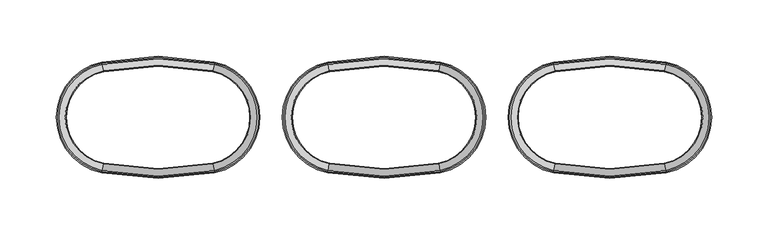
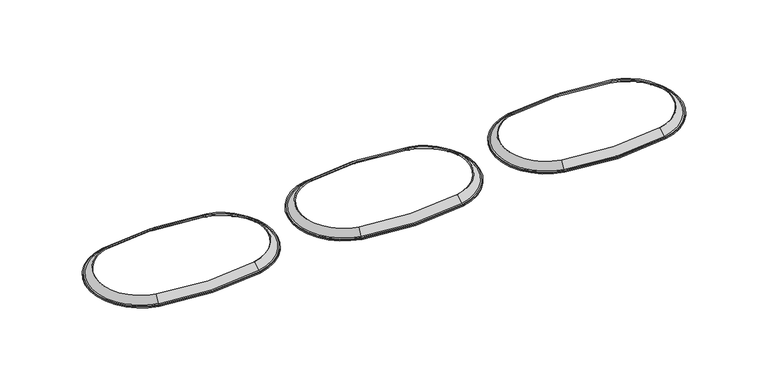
"""IFC4 building model written with IfcOpenShell, lengths in millimetres: proxy geometry, afs-LW-Track-162 : afs-LW-Track-162."""

from ifc_helpers import new_model, si_unit, point, frame, origin, place, context, project, spatial, polyline, circle_curve, ellipse_curve, trimmed, source, transform, mapped, element, save
from ifc_brep_helpers import plane_surface, cylinder_surface, revolved_surface, advanced_brep


def generic_models_f21598dd(model_context):
    return source(origin(), model_context, "Body", "AdvancedBrep", [
        advanced_brep(
        [(1159.3576594, -46.3549295, 1.862006), (1060.6423406, -46.3549295, 1.862006), (1061.8277027, -40.4865309, 7.8489239), (1158.1722973, -40.4865309, 7.8489239), (1159.6338898, -47.7224696, 1.2), (1060.3661102, -47.7224696, 1.2), (1159.8939957, -49.0101813, 2.1883516), (1060.1060043, -49.0101813, 2.1883516), (1060.1060043, -49.0101813, 1.2), (1159.8939957, -49.0101813, 1.2), (1159.4941023, -47.0304204, 2.5870863), (1060.5058977, -47.0304204, 2.5870863), (1060.3153044, -47.9739947, 2.1883516), (1159.6846956, -47.9739947, 2.1883516), (1158.3122988, -41.1796395, 8.5560306), (1061.6877012, -41.1796395, 8.5560306), (1060.6423406, 46.3549295, 1.862006), (1159.3576594, 46.3549295, 1.862006), (1158.1722973, 40.4865309, 7.8489239), (1061.8277027, 40.4865309, 7.8489239), (1060.3661102, 47.7224696, 1.2), (1159.6338898, 47.7224696, 1.2), (1060.1060043, 49.0101813, 2.1883516), (1159.8939957, 49.0101813, 2.1883516), (1159.8939957, 49.0101813, 1.2), (1060.1060043, 49.0101813, 1.2), (1060.5058977, 47.0304204, 2.5870863), (1159.4941023, 47.0304204, 2.5870863), (1159.6846956, 47.9739947, 2.1883516), (1060.3153044, 47.9739947, 2.1883516), (1061.6877012, 41.1796395, 8.5560306), (1158.3122988, 41.1796395, 8.5560306)],
        [
            (0, 1, circle_curve(frame((1110.0, 198.0011326, 1.862006), z_axis=(0.0, 0.0, -1.0), x_axis=(-0.1979920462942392, -0.9802036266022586, 0.0)), 249.2911222)),
            (1, 2),
            (2, 3, circle_curve(frame((1110.0, 198.0011326, 7.8489239), z_axis=(0.0, 0.0, 1.0), x_axis=(-0.1979920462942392, -0.9802036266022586, 0.0)), 243.3042043)),
            (3, 0),
            (4, 5, circle_curve(frame((1110.0, 198.0011326, 1.2), z_axis=(0.0, 0.0, -1.0), x_axis=(-0.1979920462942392, -0.9802036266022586, 0.0)), 250.6862814)),
            (5, 1, circle_curve(frame((1060.3203371, -47.9490794, 3.4883516), z_axis=(0.9802036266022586, -0.1979920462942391, 0.0), x_axis=(0.1979920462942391, 0.9802036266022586, 0.0)), 2.3)),
            (0, 4, circle_curve(frame((1159.6796629, -47.9490794, 3.4883516), z_axis=(-0.9802036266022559, -0.19799204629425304, 0.0), x_axis=(-0.19799204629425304, 0.9802036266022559, 0.0)), 2.3)),
            (6, 7, circle_curve(frame((1110.0, 198.0011326, 2.1883516), z_axis=(0.0, 0.0, -1.0), x_axis=(-0.1979920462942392, -0.9802036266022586, 0.0)), 252.0)),
            (7, 8),
            (8, 9, circle_curve(frame((1110.0, 198.0011326, 1.2), z_axis=(0.0, 0.0, 1.0), x_axis=(-0.1979920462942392, -0.9802036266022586, 0.0)), 252.0)),
            (9, 6),
            (10, 11, circle_curve(frame((1110.0, 198.0011326, 2.5870863), z_axis=(0.0, 0.0, -1.0), x_axis=(-0.1979920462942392, -0.9802036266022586, 0.0)), 249.9802554)),
            (11, 12, circle_curve(frame((1060.3153044, -47.9739947, 3.5497172), z_axis=(-0.9802036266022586, 0.1979920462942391, 0.0), x_axis=(0.1979920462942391, 0.9802036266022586, 0.0)), 1.3613657)),
            (12, 13, circle_curve(frame((1110.0, 198.0011326, 2.1883516), z_axis=(0.0, 0.0, 1.0), x_axis=(-0.1979920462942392, -0.9802036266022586, 0.0)), 250.9428863)),
            (13, 10, circle_curve(frame((1159.6846956, -47.9739947, 3.5497172), z_axis=(0.9802036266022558, 0.197992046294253, 0.0), x_axis=(-0.197992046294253, 0.9802036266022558, 0.0)), 1.3613657)),
            (14, 15, circle_curve(frame((1110.0, 198.0011326, 8.5560306), z_axis=(0.0, 0.0, -1.0), x_axis=(-0.1979920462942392, -0.9802036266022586, 0.0)), 244.0113111)),
            (15, 11),
            (10, 14),
            (2, 15),
            (14, 3),
            (16, 17, circle_curve(frame((1110.0, -198.0011326, 1.862006), z_axis=(0.0, 0.0, -1.0), x_axis=(0.1979920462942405, 0.9802036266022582, 0.0)), 249.2911222)),
            (17, 18),
            (18, 19, circle_curve(frame((1110.0, -198.0011326, 7.8489239), z_axis=(0.0, 0.0, 1.0), x_axis=(0.1979920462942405, 0.9802036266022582, 0.0)), 243.3042043)),
            (19, 16),
            (20, 21, circle_curve(frame((1110.0, -198.0011326, 1.2), z_axis=(0.0, 0.0, -1.0), x_axis=(0.1979920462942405, 0.9802036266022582, 0.0)), 250.6862814)),
            (21, 17, circle_curve(frame((1159.6796629, 47.9490794, 3.4883516), z_axis=(-0.9802036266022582, 0.19799204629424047, 0.0), x_axis=(-0.19799204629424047, -0.9802036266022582, 0.0)), 2.3)),
            (16, 20, circle_curve(frame((1060.3203371, 47.9490794, 3.4883516), z_axis=(0.9802036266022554, 0.1979920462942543, 0.0), x_axis=(0.1979920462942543, -0.9802036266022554, 0.0)), 2.3)),
            (22, 23, circle_curve(frame((1110.0, -198.0011326, 2.1883516), z_axis=(0.0, 0.0, -1.0), x_axis=(0.1979920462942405, 0.9802036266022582, 0.0)), 252.0)),
            (23, 24),
            (24, 25, circle_curve(frame((1110.0, -198.0011326, 1.2), z_axis=(0.0, 0.0, 1.0), x_axis=(0.1979920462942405, 0.9802036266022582, 0.0)), 252.0)),
            (25, 22),
            (26, 27, circle_curve(frame((1110.0, -198.0011326, 2.5870863), z_axis=(0.0, 0.0, -1.0), x_axis=(0.1979920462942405, 0.9802036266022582, 0.0)), 249.9802554)),
            (27, 28, circle_curve(frame((1159.6846956, 47.9739947, 3.5497172), z_axis=(0.9802036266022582, -0.19799204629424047, 0.0), x_axis=(-0.19799204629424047, -0.9802036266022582, 0.0)), 1.3613657)),
            (28, 29, circle_curve(frame((1110.0, -198.0011326, 2.1883516), z_axis=(0.0, 0.0, 1.0), x_axis=(0.1979920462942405, 0.9802036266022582, 0.0)), 250.9428863)),
            (29, 26, circle_curve(frame((1060.3153044, 47.9739947, 3.5497172), z_axis=(-0.9802036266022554, -0.19799204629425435, 0.0), x_axis=(0.19799204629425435, -0.9802036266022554, 0.0)), 1.3613657)),
            (30, 31, circle_curve(frame((1110.0, -198.0011326, 8.5560306), z_axis=(0.0, 0.0, -1.0), x_axis=(0.1979920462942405, 0.9802036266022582, 0.0)), 244.0113111)),
            (31, 27),
            (26, 30),
            (18, 31),
            (30, 19),
            (1, 16, circle_curve(frame((1070.0056066, 0.0, 1.862006), z_axis=(0.0, 0.0, -1.0), x_axis=(-0.19799204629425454, 0.9802036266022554, 0.0)), 47.2911222)),
            (19, 2, circle_curve(frame((1070.0056066, 0.0, 7.8489239), z_axis=(0.0, 0.0, 1.0), x_axis=(-0.19799204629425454, 0.9802036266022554, 0.0)), 41.3042043)),
            (5, 20, circle_curve(frame((1070.0056066, 0.0, 1.2), z_axis=(0.0, 0.0, -1.0), x_axis=(-0.19799204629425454, 0.9802036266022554, 0.0)), 48.6862814)),
            (7, 22, circle_curve(frame((1070.0056066, 0.0, 2.1883516), z_axis=(0.0, 0.0, -1.0), x_axis=(-0.19799204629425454, 0.9802036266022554, 0.0)), 50.0)),
            (25, 8, circle_curve(frame((1070.0056066, 0.0, 1.2), z_axis=(0.0, 0.0, 1.0), x_axis=(-0.19799204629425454, 0.9802036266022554, 0.0)), 50.0)),
            (11, 26, circle_curve(frame((1070.0056066, 0.0, 2.5870863), z_axis=(0.0, 0.0, -1.0), x_axis=(-0.19799204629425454, 0.9802036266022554, 0.0)), 47.9802554)),
            (29, 12, circle_curve(frame((1070.0056066, 0.0, 2.1883516), z_axis=(0.0, 0.0, 1.0), x_axis=(-0.19799204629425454, 0.9802036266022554, 0.0)), 48.9428863)),
            (15, 30, circle_curve(frame((1070.0056066, 0.0, 8.5560306), z_axis=(0.0, 0.0, -1.0), x_axis=(-0.19799204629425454, 0.9802036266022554, 0.0)), 42.0113111)),
            (17, 0, circle_curve(frame((1149.9943934, 0.0, 1.862006), z_axis=(0.0, 0.0, -1.0), x_axis=(0.19799204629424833, -0.9802036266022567, 0.0)), 47.2911222)),
            (3, 18, circle_curve(frame((1149.9943934, 0.0, 7.8489239), z_axis=(0.0, 0.0, 1.0), x_axis=(0.19799204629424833, -0.9802036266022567, 0.0)), 41.3042043)),
            (21, 4, circle_curve(frame((1149.9943934, 0.0, 1.2), z_axis=(0.0, 0.0, -1.0), x_axis=(0.19799204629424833, -0.9802036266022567, 0.0)), 48.6862814)),
            (24, 9, circle_curve(frame((1149.9943934, 0.0, 1.2), z_axis=(0.0, 0.0, -1.0), x_axis=(0.19799204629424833, -0.9802036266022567, 0.0)), 50.0)),
            (23, 6, circle_curve(frame((1149.9943934, 0.0, 2.1883516), z_axis=(0.0, 0.0, -1.0), x_axis=(0.19799204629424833, -0.9802036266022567, 0.0)), 50.0)),
            (28, 13, circle_curve(frame((1149.9943934, 0.0, 2.1883516), z_axis=(0.0, 0.0, -1.0), x_axis=(0.19799204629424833, -0.9802036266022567, 0.0)), 48.9428863)),
            (27, 10, circle_curve(frame((1149.9943934, 0.0, 2.5870863), z_axis=(0.0, 0.0, -1.0), x_axis=(0.19799204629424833, -0.9802036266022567, 0.0)), 47.9802554)),
            (31, 14, circle_curve(frame((1149.9943934, 0.0, 8.5560306), z_axis=(0.0, 0.0, -1.0), x_axis=(0.19799204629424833, -0.9802036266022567, 0.0)), 42.0113111)),
        ],
        [
            revolved_surface(polyline([(1061.8277027, -40.4865309, 7.8489239), (1060.6423406, -46.3549295, 1.862006)]), (1110.0, 198.0011326, 1.2), (0.0, 0.0, 1.0)),
            revolved_surface(trimmed(ellipse_curve(frame((1060.3203371, -47.9490794, 3.4883516), z_axis=(-0.9802036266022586, 0.1979920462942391, 0.0), x_axis=(0.1979920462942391, 0.9802036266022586, 0.0)), 2.3, 2.3), [point((1060.6423406, -46.3549295, 1.862006))], [point((1060.3661102, -47.7224696, 1.2))], True, "CARTESIAN"), (1110.0, 198.0011326, 1.2), (0.0, 0.0, 1.0)),
            cylinder_surface(frame((1110.0, 198.0011326, 1.2), z_axis=(0.0, 0.0, 1.0), x_axis=(-0.1979920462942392, -0.9802036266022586, 0.0)), 252.0),
            revolved_surface(trimmed(ellipse_curve(frame((1060.3153044, -47.9739947, 3.5497172), z_axis=(0.9802036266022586, -0.1979920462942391, 0.0), x_axis=(0.1979920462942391, 0.9802036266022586, 0.0)), 1.3613657, 1.3613657), [point((1060.3153044, -47.9739947, 2.1883516))], [point((1060.5058977, -47.0304204, 2.5870863))], True, "CARTESIAN"), (1110.0, 198.0011326, 1.2), (0.0, 0.0, 1.0)),
            revolved_surface(polyline([(1060.5058977, -47.0304204, 2.5870863), (1061.6877012, -41.1796395, 8.5560306)]), (1110.0, 198.0011326, 1.2), (0.0, 0.0, 1.0)),
            revolved_surface(polyline([(1061.6877012, -41.1796395, 8.5560306), (1061.8277027, -40.4865309, 7.8489239)]), (1110.0, 198.0011326, 1.2), (0.0, 0.0, 1.0)),
            revolved_surface(polyline([(1158.1722973, 40.4865309, 7.8489239), (1159.3576594, 46.3549295, 1.862006)]), (1110.0, -198.0011326, 1.2), (0.0, 0.0, 1.0)),
            revolved_surface(trimmed(ellipse_curve(frame((1159.6796629, 47.9490794, 3.4883516), z_axis=(0.9802036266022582, -0.19799204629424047, 0.0), x_axis=(-0.19799204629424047, -0.9802036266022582, 0.0)), 2.3, 2.3), [point((1159.3576594, 46.3549295, 1.862006))], [point((1159.6338898, 47.7224696, 1.2))], True, "CARTESIAN"), (1110.0, -198.0011326, 1.2), (0.0, 0.0, 1.0)),
            cylinder_surface(frame((1110.0, -198.0011326, 1.2), z_axis=(0.0, 0.0, 1.0), x_axis=(0.1979920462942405, 0.9802036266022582, 0.0)), 252.0),
            revolved_surface(trimmed(ellipse_curve(frame((1159.6846956, 47.9739947, 3.5497172), z_axis=(-0.9802036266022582, 0.19799204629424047, 0.0), x_axis=(-0.19799204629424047, -0.9802036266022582, 0.0)), 1.3613657, 1.3613657), [point((1159.6846956, 47.9739947, 2.1883516))], [point((1159.4941023, 47.0304204, 2.5870863))], True, "CARTESIAN"), (1110.0, -198.0011326, 1.2), (0.0, 0.0, 1.0)),
            revolved_surface(polyline([(1159.4941023, 47.0304204, 2.5870863), (1158.3122988, 41.1796395, 8.5560306)]), (1110.0, -198.0011326, 1.2), (0.0, 0.0, 1.0)),
            revolved_surface(polyline([(1158.3122988, 41.1796395, 8.5560306), (1158.1722973, 40.4865309, 7.8489239)]), (1110.0, -198.0011326, 1.2), (0.0, 0.0, 1.0)),
            revolved_surface(polyline([(1061.8277027, 40.4865309, 7.8489239), (1060.6423406, 46.3549295, 1.862006)]), (1070.0056066, 0.0, 1.2), (0.0, 0.0, 1.0)),
            revolved_surface(trimmed(ellipse_curve(frame((1060.3203371, 47.9490794, 3.4883516), z_axis=(0.9802036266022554, 0.19799204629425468, 0.0), x_axis=(0.19799204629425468, -0.9802036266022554, 0.0)), 2.3, 2.3), [point((1060.6423406, 46.3549295, 1.862006))], [point((1060.3661102, 47.7224696, 1.2))], True, "CARTESIAN"), (1070.0056066, 0.0, 1.2), (0.0, 0.0, 1.0)),
            cylinder_surface(frame((1070.0056066, 0.0, 1.2), z_axis=(0.0, 0.0, 1.0), x_axis=(-0.19799204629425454, 0.9802036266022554, 0.0)), 50.0),
            revolved_surface(trimmed(ellipse_curve(frame((1060.3153044, 47.9739947, 3.5497172), z_axis=(-0.9802036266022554, -0.19799204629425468, 0.0), x_axis=(0.19799204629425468, -0.9802036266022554, 0.0)), 1.3613657, 1.3613657), [point((1060.3153044, 47.9739947, 2.1883516))], [point((1060.5058977, 47.0304204, 2.5870863))], True, "CARTESIAN"), (1070.0056066, 0.0, 1.2), (0.0, 0.0, 1.0)),
            revolved_surface(polyline([(1060.5058977, 47.0304204, 2.5870863), (1061.6877012, 41.1796395, 8.5560306)]), (1070.0056066, 0.0, 1.2), (0.0, 0.0, 1.0)),
            revolved_surface(polyline([(1061.6877012, 41.1796395, 8.5560306), (1061.8277027, 40.4865309, 7.8489239)]), (1070.0056066, 0.0, 1.2), (0.0, 0.0, 1.0)),
            revolved_surface(polyline([(1158.1722973, -40.4865309, 7.8489239), (1159.3576594, -46.3549295, 1.862006)]), (1149.9943934, 0.0, 1.2), (0.0, 0.0, 1.0)),
            revolved_surface(trimmed(ellipse_curve(frame((1159.6796629, -47.9490794, 3.4883516), z_axis=(-0.9802036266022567, -0.1979920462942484, 0.0), x_axis=(-0.1979920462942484, 0.9802036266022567, 0.0)), 2.3, 2.3), [point((1159.3576594, -46.3549295, 1.862006))], [point((1159.6338898, -47.7224696, 1.2))], True, "CARTESIAN"), (1149.9943934, 0.0, 1.2), (0.0, 0.0, 1.0)),
            plane_surface(frame((1149.9943934, 0.0, 1.2), z_axis=(0.0, 0.0, -1.0), x_axis=(0.19799204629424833, -0.9802036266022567, 0.0))),
            cylinder_surface(frame((1149.9943934, 0.0, 1.2), z_axis=(0.0, 0.0, 1.0), x_axis=(0.19799204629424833, -0.9802036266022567, 0.0)), 50.0),
            plane_surface(frame((1149.9943934, 0.0, 2.1883516), z_axis=(0.0, 0.0, 1.0), x_axis=(0.19799204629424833, -0.9802036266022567, 0.0))),
            revolved_surface(trimmed(ellipse_curve(frame((1159.6846956, -47.9739947, 3.5497172), z_axis=(0.9802036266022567, 0.1979920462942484, 0.0), x_axis=(-0.1979920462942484, 0.9802036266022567, 0.0)), 1.3613657, 1.3613657), [point((1159.6846956, -47.9739947, 2.1883516))], [point((1159.4941023, -47.0304204, 2.5870863))], True, "CARTESIAN"), (1149.9943934, 0.0, 1.2), (0.0, 0.0, 1.0)),
            revolved_surface(polyline([(1159.4941023, -47.0304204, 2.5870863), (1158.3122988, -41.1796395, 8.5560306)]), (1149.9943934, 0.0, 1.2), (0.0, 0.0, 1.0)),
            revolved_surface(polyline([(1158.3122988, -41.1796395, 8.5560306), (1158.1722973, -40.4865309, 7.8489239)]), (1149.9943934, 0.0, 1.2), (0.0, 0.0, 1.0)),
        ],
        [
            (0, [[1, 2, 3, 4]]),
            (1, [[5, 6, -1, 7]]),
            (2, [[8, 9, 10, 11]]),
            (3, [[12, 13, 14, 15]]),
            (4, [[16, 17, -12, 18]]),
            (5, [[-3, 19, -16, 20]]),
            (6, [[21, 22, 23, 24]]),
            (7, [[25, 26, -21, 27]]),
            (8, [[28, 29, 30, 31]]),
            (9, [[32, 33, 34, 35]]),
            (10, [[36, 37, -32, 38]]),
            (11, [[-23, 39, -36, 40]]),
            (12, [[41, -24, 42, -2]]),
            (13, [[43, -27, -41, -6]]),
            (14, [[44, -31, 45, -9]]),
            (15, [[46, -35, 47, -13]]),
            (16, [[48, -38, -46, -17]]),
            (17, [[-42, -40, -48, -19]]),
            (18, [[49, -4, 50, -22]]),
            (19, [[51, -7, -49, -26]]),
            (20, [[52, -10, -45, -30], [-25, -43, -5, -51]]),
            (21, [[53, -11, -52, -29]]),
            (22, [[-28, -44, -8, -53], [54, -14, -47, -34]]),
            (23, [[55, -15, -54, -33]]),
            (24, [[56, -18, -55, -37]]),
            (25, [[-50, -20, -56, -39]]),
        ],
    ),
        advanced_brep(
        [(959.3576594, -46.3549295, 1.862006), (860.6423406, -46.3549295, 1.862006), (861.8277027, -40.4865309, 7.8489239), (958.1722973, -40.4865309, 7.8489239), (959.6338898, -47.7224696, 1.2), (860.3661102, -47.7224696, 1.2), (959.8939957, -49.0101813, 2.1883516), (860.1060043, -49.0101813, 2.1883516), (860.1060043, -49.0101813, 1.2), (959.8939957, -49.0101813, 1.2), (959.4941023, -47.0304204, 2.5870863), (860.5058977, -47.0304204, 2.5870863), (860.3153044, -47.9739947, 2.1883516), (959.6846956, -47.9739947, 2.1883516), (958.3122988, -41.1796395, 8.5560306), (861.6877012, -41.1796395, 8.5560306), (860.6423406, 46.3549295, 1.862006), (959.3576594, 46.3549295, 1.862006), (958.1722973, 40.4865309, 7.8489239), (861.8277027, 40.4865309, 7.8489239), (860.3661102, 47.7224696, 1.2), (959.6338898, 47.7224696, 1.2), (860.1060043, 49.0101813, 2.1883516), (959.8939957, 49.0101813, 2.1883516), (959.8939957, 49.0101813, 1.2), (860.1060043, 49.0101813, 1.2), (860.5058977, 47.0304204, 2.5870863), (959.4941023, 47.0304204, 2.5870863), (959.6846956, 47.9739947, 2.1883516), (860.3153044, 47.9739947, 2.1883516), (861.6877012, 41.1796395, 8.5560306), (958.3122988, 41.1796395, 8.5560306)],
        [
            (0, 1, circle_curve(frame((910.0, 198.0011326, 1.862006), z_axis=(0.0, 0.0, -1.0), x_axis=(-0.1979920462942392, -0.9802036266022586, 0.0)), 249.2911222)),
            (1, 2),
            (2, 3, circle_curve(frame((910.0, 198.0011326, 7.8489239), z_axis=(0.0, 0.0, 1.0), x_axis=(-0.1979920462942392, -0.9802036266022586, 0.0)), 243.3042043)),
            (3, 0),
            (4, 5, circle_curve(frame((910.0, 198.0011326, 1.2), z_axis=(0.0, 0.0, -1.0), x_axis=(-0.1979920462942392, -0.9802036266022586, 0.0)), 250.6862814)),
            (5, 1, circle_curve(frame((860.3203371, -47.9490794, 3.4883516), z_axis=(0.9802036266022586, -0.1979920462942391, 0.0), x_axis=(0.1979920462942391, 0.9802036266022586, 0.0)), 2.3)),
            (0, 4, circle_curve(frame((959.6796629, -47.9490794, 3.4883516), z_axis=(-0.9802036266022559, -0.19799204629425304, 0.0), x_axis=(-0.19799204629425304, 0.9802036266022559, 0.0)), 2.3)),
            (6, 7, circle_curve(frame((910.0, 198.0011326, 2.1883516), z_axis=(0.0, 0.0, -1.0), x_axis=(-0.1979920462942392, -0.9802036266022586, 0.0)), 252.0)),
            (7, 8),
            (8, 9, circle_curve(frame((910.0, 198.0011326, 1.2), z_axis=(0.0, 0.0, 1.0), x_axis=(-0.1979920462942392, -0.9802036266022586, 0.0)), 252.0)),
            (9, 6),
            (10, 11, circle_curve(frame((910.0, 198.0011326, 2.5870863), z_axis=(0.0, 0.0, -1.0), x_axis=(-0.1979920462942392, -0.9802036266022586, 0.0)), 249.9802554)),
            (11, 12, circle_curve(frame((860.3153044, -47.9739947, 3.5497172), z_axis=(-0.9802036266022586, 0.1979920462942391, 0.0), x_axis=(0.1979920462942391, 0.9802036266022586, 0.0)), 1.3613657)),
            (12, 13, circle_curve(frame((910.0, 198.0011326, 2.1883516), z_axis=(0.0, 0.0, 1.0), x_axis=(-0.1979920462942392, -0.9802036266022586, 0.0)), 250.9428863)),
            (13, 10, circle_curve(frame((959.6846956, -47.9739947, 3.5497172), z_axis=(0.9802036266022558, 0.197992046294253, 0.0), x_axis=(-0.197992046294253, 0.9802036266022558, 0.0)), 1.3613657)),
            (14, 15, circle_curve(frame((910.0, 198.0011326, 8.5560306), z_axis=(0.0, 0.0, -1.0), x_axis=(-0.1979920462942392, -0.9802036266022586, 0.0)), 244.0113111)),
            (15, 11),
            (10, 14),
            (2, 15),
            (14, 3),
            (16, 17, circle_curve(frame((910.0, -198.0011326, 1.862006), z_axis=(0.0, 0.0, -1.0), x_axis=(0.1979920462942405, 0.9802036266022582, 0.0)), 249.2911222)),
            (17, 18),
            (18, 19, circle_curve(frame((910.0, -198.0011326, 7.8489239), z_axis=(0.0, 0.0, 1.0), x_axis=(0.1979920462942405, 0.9802036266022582, 0.0)), 243.3042043)),
            (19, 16),
            (20, 21, circle_curve(frame((910.0, -198.0011326, 1.2), z_axis=(0.0, 0.0, -1.0), x_axis=(0.1979920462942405, 0.9802036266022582, 0.0)), 250.6862814)),
            (21, 17, circle_curve(frame((959.6796629, 47.9490794, 3.4883516), z_axis=(-0.9802036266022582, 0.19799204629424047, 0.0), x_axis=(-0.19799204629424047, -0.9802036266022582, 0.0)), 2.3)),
            (16, 20, circle_curve(frame((860.3203371, 47.9490794, 3.4883516), z_axis=(0.9802036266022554, 0.1979920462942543, 0.0), x_axis=(0.1979920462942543, -0.9802036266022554, 0.0)), 2.3)),
            (22, 23, circle_curve(frame((910.0, -198.0011326, 2.1883516), z_axis=(0.0, 0.0, -1.0), x_axis=(0.1979920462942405, 0.9802036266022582, 0.0)), 252.0)),
            (23, 24),
            (24, 25, circle_curve(frame((910.0, -198.0011326, 1.2), z_axis=(0.0, 0.0, 1.0), x_axis=(0.1979920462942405, 0.9802036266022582, 0.0)), 252.0)),
            (25, 22),
            (26, 27, circle_curve(frame((910.0, -198.0011326, 2.5870863), z_axis=(0.0, 0.0, -1.0), x_axis=(0.1979920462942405, 0.9802036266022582, 0.0)), 249.9802554)),
            (27, 28, circle_curve(frame((959.6846956, 47.9739947, 3.5497172), z_axis=(0.9802036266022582, -0.19799204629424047, 0.0), x_axis=(-0.19799204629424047, -0.9802036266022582, 0.0)), 1.3613657)),
            (28, 29, circle_curve(frame((910.0, -198.0011326, 2.1883516), z_axis=(0.0, 0.0, 1.0), x_axis=(0.1979920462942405, 0.9802036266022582, 0.0)), 250.9428863)),
            (29, 26, circle_curve(frame((860.3153044, 47.9739947, 3.5497172), z_axis=(-0.9802036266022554, -0.19799204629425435, 0.0), x_axis=(0.19799204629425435, -0.9802036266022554, 0.0)), 1.3613657)),
            (30, 31, circle_curve(frame((910.0, -198.0011326, 8.5560306), z_axis=(0.0, 0.0, -1.0), x_axis=(0.1979920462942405, 0.9802036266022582, 0.0)), 244.0113111)),
            (31, 27),
            (26, 30),
            (18, 31),
            (30, 19),
            (1, 16, circle_curve(frame((870.0056066, 0.0, 1.862006), z_axis=(0.0, 0.0, -1.0), x_axis=(-0.19799204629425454, 0.9802036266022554, 0.0)), 47.2911222)),
            (19, 2, circle_curve(frame((870.0056066, 0.0, 7.8489239), z_axis=(0.0, 0.0, 1.0), x_axis=(-0.19799204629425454, 0.9802036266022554, 0.0)), 41.3042043)),
            (5, 20, circle_curve(frame((870.0056066, 0.0, 1.2), z_axis=(0.0, 0.0, -1.0), x_axis=(-0.19799204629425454, 0.9802036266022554, 0.0)), 48.6862814)),
            (7, 22, circle_curve(frame((870.0056066, 0.0, 2.1883516), z_axis=(0.0, 0.0, -1.0), x_axis=(-0.19799204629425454, 0.9802036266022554, 0.0)), 50.0)),
            (25, 8, circle_curve(frame((870.0056066, 0.0, 1.2), z_axis=(0.0, 0.0, 1.0), x_axis=(-0.19799204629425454, 0.9802036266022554, 0.0)), 50.0)),
            (11, 26, circle_curve(frame((870.0056066, 0.0, 2.5870863), z_axis=(0.0, 0.0, -1.0), x_axis=(-0.19799204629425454, 0.9802036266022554, 0.0)), 47.9802554)),
            (29, 12, circle_curve(frame((870.0056066, 0.0, 2.1883516), z_axis=(0.0, 0.0, 1.0), x_axis=(-0.19799204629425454, 0.9802036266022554, 0.0)), 48.9428863)),
            (15, 30, circle_curve(frame((870.0056066, 0.0, 8.5560306), z_axis=(0.0, 0.0, -1.0), x_axis=(-0.19799204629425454, 0.9802036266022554, 0.0)), 42.0113111)),
            (17, 0, circle_curve(frame((949.9943934, 0.0, 1.862006), z_axis=(0.0, 0.0, -1.0), x_axis=(0.19799204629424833, -0.9802036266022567, 0.0)), 47.2911222)),
            (3, 18, circle_curve(frame((949.9943934, 0.0, 7.8489239), z_axis=(0.0, 0.0, 1.0), x_axis=(0.19799204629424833, -0.9802036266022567, 0.0)), 41.3042043)),
            (21, 4, circle_curve(frame((949.9943934, 0.0, 1.2), z_axis=(0.0, 0.0, -1.0), x_axis=(0.19799204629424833, -0.9802036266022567, 0.0)), 48.6862814)),
            (24, 9, circle_curve(frame((949.9943934, 0.0, 1.2), z_axis=(0.0, 0.0, -1.0), x_axis=(0.19799204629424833, -0.9802036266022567, 0.0)), 50.0)),
            (23, 6, circle_curve(frame((949.9943934, 0.0, 2.1883516), z_axis=(0.0, 0.0, -1.0), x_axis=(0.19799204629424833, -0.9802036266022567, 0.0)), 50.0)),
            (28, 13, circle_curve(frame((949.9943934, 0.0, 2.1883516), z_axis=(0.0, 0.0, -1.0), x_axis=(0.19799204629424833, -0.9802036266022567, 0.0)), 48.9428863)),
            (27, 10, circle_curve(frame((949.9943934, 0.0, 2.5870863), z_axis=(0.0, 0.0, -1.0), x_axis=(0.19799204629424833, -0.9802036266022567, 0.0)), 47.9802554)),
            (31, 14, circle_curve(frame((949.9943934, 0.0, 8.5560306), z_axis=(0.0, 0.0, -1.0), x_axis=(0.19799204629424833, -0.9802036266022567, 0.0)), 42.0113111)),
        ],
        [
            revolved_surface(polyline([(861.8277027, -40.4865309, 7.8489239), (860.6423406, -46.3549295, 1.862006)]), (910.0, 198.0011326, 1.2), (0.0, 0.0, 1.0)),
            revolved_surface(trimmed(ellipse_curve(frame((860.3203371, -47.9490794, 3.4883516), z_axis=(-0.9802036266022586, 0.1979920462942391, 0.0), x_axis=(0.1979920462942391, 0.9802036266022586, 0.0)), 2.3, 2.3), [point((860.6423406, -46.3549295, 1.862006))], [point((860.3661102, -47.7224696, 1.2))], True, "CARTESIAN"), (910.0, 198.0011326, 1.2), (0.0, 0.0, 1.0)),
            cylinder_surface(frame((910.0, 198.0011326, 1.2), z_axis=(0.0, 0.0, 1.0), x_axis=(-0.1979920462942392, -0.9802036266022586, 0.0)), 252.0),
            revolved_surface(trimmed(ellipse_curve(frame((860.3153044, -47.9739947, 3.5497172), z_axis=(0.9802036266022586, -0.1979920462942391, 0.0), x_axis=(0.1979920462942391, 0.9802036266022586, 0.0)), 1.3613657, 1.3613657), [point((860.3153044, -47.9739947, 2.1883516))], [point((860.5058977, -47.0304204, 2.5870863))], True, "CARTESIAN"), (910.0, 198.0011326, 1.2), (0.0, 0.0, 1.0)),
            revolved_surface(polyline([(860.5058977, -47.0304204, 2.5870863), (861.6877012, -41.1796395, 8.5560306)]), (910.0, 198.0011326, 1.2), (0.0, 0.0, 1.0)),
            revolved_surface(polyline([(861.6877012, -41.1796395, 8.5560306), (861.8277027, -40.4865309, 7.8489239)]), (910.0, 198.0011326, 1.2), (0.0, 0.0, 1.0)),
            revolved_surface(polyline([(958.1722973, 40.4865309, 7.8489239), (959.3576594, 46.3549295, 1.862006)]), (910.0, -198.0011326, 1.2), (0.0, 0.0, 1.0)),
            revolved_surface(trimmed(ellipse_curve(frame((959.6796629, 47.9490794, 3.4883516), z_axis=(0.9802036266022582, -0.19799204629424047, 0.0), x_axis=(-0.19799204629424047, -0.9802036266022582, 0.0)), 2.3, 2.3), [point((959.3576594, 46.3549295, 1.862006))], [point((959.6338898, 47.7224696, 1.2))], True, "CARTESIAN"), (910.0, -198.0011326, 1.2), (0.0, 0.0, 1.0)),
            cylinder_surface(frame((910.0, -198.0011326, 1.2), z_axis=(0.0, 0.0, 1.0), x_axis=(0.1979920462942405, 0.9802036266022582, 0.0)), 252.0),
            revolved_surface(trimmed(ellipse_curve(frame((959.6846956, 47.9739947, 3.5497172), z_axis=(-0.9802036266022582, 0.19799204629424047, 0.0), x_axis=(-0.19799204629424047, -0.9802036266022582, 0.0)), 1.3613657, 1.3613657), [point((959.6846956, 47.9739947, 2.1883516))], [point((959.4941023, 47.0304204, 2.5870863))], True, "CARTESIAN"), (910.0, -198.0011326, 1.2), (0.0, 0.0, 1.0)),
            revolved_surface(polyline([(959.4941023, 47.0304204, 2.5870863), (958.3122988, 41.1796395, 8.5560306)]), (910.0, -198.0011326, 1.2), (0.0, 0.0, 1.0)),
            revolved_surface(polyline([(958.3122988, 41.1796395, 8.5560306), (958.1722973, 40.4865309, 7.8489239)]), (910.0, -198.0011326, 1.2), (0.0, 0.0, 1.0)),
            revolved_surface(polyline([(861.8277027, 40.4865309, 7.8489239), (860.6423406, 46.3549295, 1.862006)]), (870.0056066, 0.0, 1.2), (0.0, 0.0, 1.0)),
            revolved_surface(trimmed(ellipse_curve(frame((860.3203371, 47.9490794, 3.4883516), z_axis=(0.9802036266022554, 0.19799204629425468, 0.0), x_axis=(0.19799204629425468, -0.9802036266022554, 0.0)), 2.3, 2.3), [point((860.6423406, 46.3549295, 1.862006))], [point((860.3661102, 47.7224696, 1.2))], True, "CARTESIAN"), (870.0056066, 0.0, 1.2), (0.0, 0.0, 1.0)),
            cylinder_surface(frame((870.0056066, 0.0, 1.2), z_axis=(0.0, 0.0, 1.0), x_axis=(-0.19799204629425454, 0.9802036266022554, 0.0)), 50.0),
            revolved_surface(trimmed(ellipse_curve(frame((860.3153044, 47.9739947, 3.5497172), z_axis=(-0.9802036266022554, -0.19799204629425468, 0.0), x_axis=(0.19799204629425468, -0.9802036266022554, 0.0)), 1.3613657, 1.3613657), [point((860.3153044, 47.9739947, 2.1883516))], [point((860.5058977, 47.0304204, 2.5870863))], True, "CARTESIAN"), (870.0056066, 0.0, 1.2), (0.0, 0.0, 1.0)),
            revolved_surface(polyline([(860.5058977, 47.0304204, 2.5870863), (861.6877012, 41.1796395, 8.5560306)]), (870.0056066, 0.0, 1.2), (0.0, 0.0, 1.0)),
            revolved_surface(polyline([(861.6877012, 41.1796395, 8.5560306), (861.8277027, 40.4865309, 7.8489239)]), (870.0056066, 0.0, 1.2), (0.0, 0.0, 1.0)),
            revolved_surface(polyline([(958.1722973, -40.4865309, 7.8489239), (959.3576594, -46.3549295, 1.862006)]), (949.9943934, 0.0, 1.2), (0.0, 0.0, 1.0)),
            revolved_surface(trimmed(ellipse_curve(frame((959.6796629, -47.9490794, 3.4883516), z_axis=(-0.9802036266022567, -0.1979920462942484, 0.0), x_axis=(-0.1979920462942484, 0.9802036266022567, 0.0)), 2.3, 2.3), [point((959.3576594, -46.3549295, 1.862006))], [point((959.6338898, -47.7224696, 1.2))], True, "CARTESIAN"), (949.9943934, 0.0, 1.2), (0.0, 0.0, 1.0)),
            plane_surface(frame((949.9943934, 0.0, 1.2), z_axis=(0.0, 0.0, -1.0), x_axis=(0.19799204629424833, -0.9802036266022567, 0.0))),
            cylinder_surface(frame((949.9943934, 0.0, 1.2), z_axis=(0.0, 0.0, 1.0), x_axis=(0.19799204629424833, -0.9802036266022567, 0.0)), 50.0),
            plane_surface(frame((949.9943934, 0.0, 2.1883516), z_axis=(0.0, 0.0, 1.0), x_axis=(0.19799204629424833, -0.9802036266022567, 0.0))),
            revolved_surface(trimmed(ellipse_curve(frame((959.6846956, -47.9739947, 3.5497172), z_axis=(0.9802036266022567, 0.1979920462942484, 0.0), x_axis=(-0.1979920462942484, 0.9802036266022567, 0.0)), 1.3613657, 1.3613657), [point((959.6846956, -47.9739947, 2.1883516))], [point((959.4941023, -47.0304204, 2.5870863))], True, "CARTESIAN"), (949.9943934, 0.0, 1.2), (0.0, 0.0, 1.0)),
            revolved_surface(polyline([(959.4941023, -47.0304204, 2.5870863), (958.3122988, -41.1796395, 8.5560306)]), (949.9943934, 0.0, 1.2), (0.0, 0.0, 1.0)),
            revolved_surface(polyline([(958.3122988, -41.1796395, 8.5560306), (958.1722973, -40.4865309, 7.8489239)]), (949.9943934, 0.0, 1.2), (0.0, 0.0, 1.0)),
        ],
        [
            (0, [[1, 2, 3, 4]]),
            (1, [[5, 6, -1, 7]]),
            (2, [[8, 9, 10, 11]]),
            (3, [[12, 13, 14, 15]]),
            (4, [[16, 17, -12, 18]]),
            (5, [[-3, 19, -16, 20]]),
            (6, [[21, 22, 23, 24]]),
            (7, [[25, 26, -21, 27]]),
            (8, [[28, 29, 30, 31]]),
            (9, [[32, 33, 34, 35]]),
            (10, [[36, 37, -32, 38]]),
            (11, [[-23, 39, -36, 40]]),
            (12, [[41, -24, 42, -2]]),
            (13, [[43, -27, -41, -6]]),
            (14, [[44, -31, 45, -9]]),
            (15, [[46, -35, 47, -13]]),
            (16, [[48, -38, -46, -17]]),
            (17, [[-42, -40, -48, -19]]),
            (18, [[49, -4, 50, -22]]),
            (19, [[51, -7, -49, -26]]),
            (20, [[52, -10, -45, -30], [-25, -43, -5, -51]]),
            (21, [[53, -11, -52, -29]]),
            (22, [[-28, -44, -8, -53], [54, -14, -47, -34]]),
            (23, [[55, -15, -54, -33]]),
            (24, [[56, -18, -55, -37]]),
            (25, [[-50, -20, -56, -39]]),
        ],
    ),
        advanced_brep(
        [(759.3576594, -46.3549295, 1.862006), (660.6423406, -46.3549295, 1.862006), (661.8277027, -40.4865309, 7.8489239), (758.1722973, -40.4865309, 7.8489239), (759.6338898, -47.7224696, 1.2), (660.3661102, -47.7224696, 1.2), (759.8939957, -49.0101813, 2.1883516), (660.1060043, -49.0101813, 2.1883516), (660.1060043, -49.0101813, 1.2), (759.8939957, -49.0101813, 1.2), (759.4941023, -47.0304204, 2.5870863), (660.5058977, -47.0304204, 2.5870863), (660.3153044, -47.9739947, 2.1883516), (759.6846956, -47.9739947, 2.1883516), (758.3122988, -41.1796395, 8.5560306), (661.6877012, -41.1796395, 8.5560306), (660.6423406, 46.3549295, 1.862006), (759.3576594, 46.3549295, 1.862006), (758.1722973, 40.4865309, 7.8489239), (661.8277027, 40.4865309, 7.8489239), (660.3661102, 47.7224696, 1.2), (759.6338898, 47.7224696, 1.2), (660.1060043, 49.0101813, 2.1883516), (759.8939957, 49.0101813, 2.1883516), (759.8939957, 49.0101813, 1.2), (660.1060043, 49.0101813, 1.2), (660.5058977, 47.0304204, 2.5870863), (759.4941023, 47.0304204, 2.5870863), (759.6846956, 47.9739947, 2.1883516), (660.3153044, 47.9739947, 2.1883516), (661.6877012, 41.1796395, 8.5560306), (758.3122988, 41.1796395, 8.5560306)],
        [
            (0, 1, circle_curve(frame((710.0, 198.0011326, 1.862006), z_axis=(0.0, 0.0, -1.0), x_axis=(-0.1979920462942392, -0.9802036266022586, 0.0)), 249.2911222)),
            (1, 2),
            (2, 3, circle_curve(frame((710.0, 198.0011326, 7.8489239), z_axis=(0.0, 0.0, 1.0), x_axis=(-0.1979920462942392, -0.9802036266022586, 0.0)), 243.3042043)),
            (3, 0),
            (4, 5, circle_curve(frame((710.0, 198.0011326, 1.2), z_axis=(0.0, 0.0, -1.0), x_axis=(-0.1979920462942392, -0.9802036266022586, 0.0)), 250.6862814)),
            (5, 1, circle_curve(frame((660.3203371, -47.9490794, 3.4883516), z_axis=(0.9802036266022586, -0.1979920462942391, 0.0), x_axis=(0.1979920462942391, 0.9802036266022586, 0.0)), 2.3)),
            (0, 4, circle_curve(frame((759.6796629, -47.9490794, 3.4883516), z_axis=(-0.9802036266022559, -0.19799204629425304, 0.0), x_axis=(-0.19799204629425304, 0.9802036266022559, 0.0)), 2.3)),
            (6, 7, circle_curve(frame((710.0, 198.0011326, 2.1883516), z_axis=(0.0, 0.0, -1.0), x_axis=(-0.1979920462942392, -0.9802036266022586, 0.0)), 252.0)),
            (7, 8),
            (8, 9, circle_curve(frame((710.0, 198.0011326, 1.2), z_axis=(0.0, 0.0, 1.0), x_axis=(-0.1979920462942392, -0.9802036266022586, 0.0)), 252.0)),
            (9, 6),
            (10, 11, circle_curve(frame((710.0, 198.0011326, 2.5870863), z_axis=(0.0, 0.0, -1.0), x_axis=(-0.1979920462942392, -0.9802036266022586, 0.0)), 249.9802554)),
            (11, 12, circle_curve(frame((660.3153044, -47.9739947, 3.5497172), z_axis=(-0.9802036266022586, 0.1979920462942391, 0.0), x_axis=(0.1979920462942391, 0.9802036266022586, 0.0)), 1.3613657)),
            (12, 13, circle_curve(frame((710.0, 198.0011326, 2.1883516), z_axis=(0.0, 0.0, 1.0), x_axis=(-0.1979920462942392, -0.9802036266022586, 0.0)), 250.9428863)),
            (13, 10, circle_curve(frame((759.6846956, -47.9739947, 3.5497172), z_axis=(0.9802036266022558, 0.197992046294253, 0.0), x_axis=(-0.197992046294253, 0.9802036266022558, 0.0)), 1.3613657)),
            (14, 15, circle_curve(frame((710.0, 198.0011326, 8.5560306), z_axis=(0.0, 0.0, -1.0), x_axis=(-0.1979920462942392, -0.9802036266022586, 0.0)), 244.0113111)),
            (15, 11),
            (10, 14),
            (2, 15),
            (14, 3),
            (16, 17, circle_curve(frame((710.0, -198.0011326, 1.862006), z_axis=(0.0, 0.0, -1.0), x_axis=(0.1979920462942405, 0.9802036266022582, 0.0)), 249.2911222)),
            (17, 18),
            (18, 19, circle_curve(frame((710.0, -198.0011326, 7.8489239), z_axis=(0.0, 0.0, 1.0), x_axis=(0.1979920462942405, 0.9802036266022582, 0.0)), 243.3042043)),
            (19, 16),
            (20, 21, circle_curve(frame((710.0, -198.0011326, 1.2), z_axis=(0.0, 0.0, -1.0), x_axis=(0.1979920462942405, 0.9802036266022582, 0.0)), 250.6862814)),
            (21, 17, circle_curve(frame((759.6796629, 47.9490794, 3.4883516), z_axis=(-0.9802036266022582, 0.19799204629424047, 0.0), x_axis=(-0.19799204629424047, -0.9802036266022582, 0.0)), 2.3)),
            (16, 20, circle_curve(frame((660.3203371, 47.9490794, 3.4883516), z_axis=(0.9802036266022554, 0.1979920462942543, 0.0), x_axis=(0.1979920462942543, -0.9802036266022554, 0.0)), 2.3)),
            (22, 23, circle_curve(frame((710.0, -198.0011326, 2.1883516), z_axis=(0.0, 0.0, -1.0), x_axis=(0.1979920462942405, 0.9802036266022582, 0.0)), 252.0)),
            (23, 24),
            (24, 25, circle_curve(frame((710.0, -198.0011326, 1.2), z_axis=(0.0, 0.0, 1.0), x_axis=(0.1979920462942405, 0.9802036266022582, 0.0)), 252.0)),
            (25, 22),
            (26, 27, circle_curve(frame((710.0, -198.0011326, 2.5870863), z_axis=(0.0, 0.0, -1.0), x_axis=(0.1979920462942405, 0.9802036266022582, 0.0)), 249.9802554)),
            (27, 28, circle_curve(frame((759.6846956, 47.9739947, 3.5497172), z_axis=(0.9802036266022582, -0.19799204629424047, 0.0), x_axis=(-0.19799204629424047, -0.9802036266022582, 0.0)), 1.3613657)),
            (28, 29, circle_curve(frame((710.0, -198.0011326, 2.1883516), z_axis=(0.0, 0.0, 1.0), x_axis=(0.1979920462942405, 0.9802036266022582, 0.0)), 250.9428863)),
            (29, 26, circle_curve(frame((660.3153044, 47.9739947, 3.5497172), z_axis=(-0.9802036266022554, -0.19799204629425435, 0.0), x_axis=(0.19799204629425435, -0.9802036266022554, 0.0)), 1.3613657)),
            (30, 31, circle_curve(frame((710.0, -198.0011326, 8.5560306), z_axis=(0.0, 0.0, -1.0), x_axis=(0.1979920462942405, 0.9802036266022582, 0.0)), 244.0113111)),
            (31, 27),
            (26, 30),
            (18, 31),
            (30, 19),
            (1, 16, circle_curve(frame((670.0056066, 0.0, 1.862006), z_axis=(0.0, 0.0, -1.0), x_axis=(-0.19799204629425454, 0.9802036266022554, 0.0)), 47.2911222)),
            (19, 2, circle_curve(frame((670.0056066, 0.0, 7.8489239), z_axis=(0.0, 0.0, 1.0), x_axis=(-0.19799204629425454, 0.9802036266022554, 0.0)), 41.3042043)),
            (5, 20, circle_curve(frame((670.0056066, 0.0, 1.2), z_axis=(0.0, 0.0, -1.0), x_axis=(-0.19799204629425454, 0.9802036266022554, 0.0)), 48.6862814)),
            (7, 22, circle_curve(frame((670.0056066, 0.0, 2.1883516), z_axis=(0.0, 0.0, -1.0), x_axis=(-0.19799204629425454, 0.9802036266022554, 0.0)), 50.0)),
            (25, 8, circle_curve(frame((670.0056066, 0.0, 1.2), z_axis=(0.0, 0.0, 1.0), x_axis=(-0.19799204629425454, 0.9802036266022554, 0.0)), 50.0)),
            (11, 26, circle_curve(frame((670.0056066, 0.0, 2.5870863), z_axis=(0.0, 0.0, -1.0), x_axis=(-0.19799204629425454, 0.9802036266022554, 0.0)), 47.9802554)),
            (29, 12, circle_curve(frame((670.0056066, 0.0, 2.1883516), z_axis=(0.0, 0.0, 1.0), x_axis=(-0.19799204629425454, 0.9802036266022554, 0.0)), 48.9428863)),
            (15, 30, circle_curve(frame((670.0056066, 0.0, 8.5560306), z_axis=(0.0, 0.0, -1.0), x_axis=(-0.19799204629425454, 0.9802036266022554, 0.0)), 42.0113111)),
            (17, 0, circle_curve(frame((749.9943934, 0.0, 1.862006), z_axis=(0.0, 0.0, -1.0), x_axis=(0.19799204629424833, -0.9802036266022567, 0.0)), 47.2911222)),
            (3, 18, circle_curve(frame((749.9943934, 0.0, 7.8489239), z_axis=(0.0, 0.0, 1.0), x_axis=(0.19799204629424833, -0.9802036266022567, 0.0)), 41.3042043)),
            (21, 4, circle_curve(frame((749.9943934, 0.0, 1.2), z_axis=(0.0, 0.0, -1.0), x_axis=(0.19799204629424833, -0.9802036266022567, 0.0)), 48.6862814)),
            (24, 9, circle_curve(frame((749.9943934, 0.0, 1.2), z_axis=(0.0, 0.0, -1.0), x_axis=(0.19799204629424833, -0.9802036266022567, 0.0)), 50.0)),
            (23, 6, circle_curve(frame((749.9943934, 0.0, 2.1883516), z_axis=(0.0, 0.0, -1.0), x_axis=(0.19799204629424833, -0.9802036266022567, 0.0)), 50.0)),
            (28, 13, circle_curve(frame((749.9943934, 0.0, 2.1883516), z_axis=(0.0, 0.0, -1.0), x_axis=(0.19799204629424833, -0.9802036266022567, 0.0)), 48.9428863)),
            (27, 10, circle_curve(frame((749.9943934, 0.0, 2.5870863), z_axis=(0.0, 0.0, -1.0), x_axis=(0.19799204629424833, -0.9802036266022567, 0.0)), 47.9802554)),
            (31, 14, circle_curve(frame((749.9943934, 0.0, 8.5560306), z_axis=(0.0, 0.0, -1.0), x_axis=(0.19799204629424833, -0.9802036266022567, 0.0)), 42.0113111)),
        ],
        [
            revolved_surface(polyline([(661.8277027, -40.4865309, 7.8489239), (660.6423406, -46.3549295, 1.862006)]), (710.0, 198.0011326, 1.2), (0.0, 0.0, 1.0)),
            revolved_surface(trimmed(ellipse_curve(frame((660.3203371, -47.9490794, 3.4883516), z_axis=(-0.9802036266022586, 0.1979920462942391, 0.0), x_axis=(0.1979920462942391, 0.9802036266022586, 0.0)), 2.3, 2.3), [point((660.6423406, -46.3549295, 1.862006))], [point((660.3661102, -47.7224696, 1.2))], True, "CARTESIAN"), (710.0, 198.0011326, 1.2), (0.0, 0.0, 1.0)),
            cylinder_surface(frame((710.0, 198.0011326, 1.2), z_axis=(0.0, 0.0, 1.0), x_axis=(-0.1979920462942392, -0.9802036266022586, 0.0)), 252.0),
            revolved_surface(trimmed(ellipse_curve(frame((660.3153044, -47.9739947, 3.5497172), z_axis=(0.9802036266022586, -0.1979920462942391, 0.0), x_axis=(0.1979920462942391, 0.9802036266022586, 0.0)), 1.3613657, 1.3613657), [point((660.3153044, -47.9739947, 2.1883516))], [point((660.5058977, -47.0304204, 2.5870863))], True, "CARTESIAN"), (710.0, 198.0011326, 1.2), (0.0, 0.0, 1.0)),
            revolved_surface(polyline([(660.5058977, -47.0304204, 2.5870863), (661.6877012, -41.1796395, 8.5560306)]), (710.0, 198.0011326, 1.2), (0.0, 0.0, 1.0)),
            revolved_surface(polyline([(661.6877012, -41.1796395, 8.5560306), (661.8277027, -40.4865309, 7.8489239)]), (710.0, 198.0011326, 1.2), (0.0, 0.0, 1.0)),
            revolved_surface(polyline([(758.1722973, 40.4865309, 7.8489239), (759.3576594, 46.3549295, 1.862006)]), (710.0, -198.0011326, 1.2), (0.0, 0.0, 1.0)),
            revolved_surface(trimmed(ellipse_curve(frame((759.6796629, 47.9490794, 3.4883516), z_axis=(0.9802036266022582, -0.19799204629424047, 0.0), x_axis=(-0.19799204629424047, -0.9802036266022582, 0.0)), 2.3, 2.3), [point((759.3576594, 46.3549295, 1.862006))], [point((759.6338898, 47.7224696, 1.2))], True, "CARTESIAN"), (710.0, -198.0011326, 1.2), (0.0, 0.0, 1.0)),
            cylinder_surface(frame((710.0, -198.0011326, 1.2), z_axis=(0.0, 0.0, 1.0), x_axis=(0.1979920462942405, 0.9802036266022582, 0.0)), 252.0),
            revolved_surface(trimmed(ellipse_curve(frame((759.6846956, 47.9739947, 3.5497172), z_axis=(-0.9802036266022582, 0.19799204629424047, 0.0), x_axis=(-0.19799204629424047, -0.9802036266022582, 0.0)), 1.3613657, 1.3613657), [point((759.6846956, 47.9739947, 2.1883516))], [point((759.4941023, 47.0304204, 2.5870863))], True, "CARTESIAN"), (710.0, -198.0011326, 1.2), (0.0, 0.0, 1.0)),
            revolved_surface(polyline([(759.4941023, 47.0304204, 2.5870863), (758.3122988, 41.1796395, 8.5560306)]), (710.0, -198.0011326, 1.2), (0.0, 0.0, 1.0)),
            revolved_surface(polyline([(758.3122988, 41.1796395, 8.5560306), (758.1722973, 40.4865309, 7.8489239)]), (710.0, -198.0011326, 1.2), (0.0, 0.0, 1.0)),
            revolved_surface(polyline([(661.8277027, 40.4865309, 7.8489239), (660.6423406, 46.3549295, 1.862006)]), (670.0056066, 0.0, 1.2), (0.0, 0.0, 1.0)),
            revolved_surface(trimmed(ellipse_curve(frame((660.3203371, 47.9490794, 3.4883516), z_axis=(0.9802036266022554, 0.19799204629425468, 0.0), x_axis=(0.19799204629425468, -0.9802036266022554, 0.0)), 2.3, 2.3), [point((660.6423406, 46.3549295, 1.862006))], [point((660.3661102, 47.7224696, 1.2))], True, "CARTESIAN"), (670.0056066, 0.0, 1.2), (0.0, 0.0, 1.0)),
            cylinder_surface(frame((670.0056066, 0.0, 1.2), z_axis=(0.0, 0.0, 1.0), x_axis=(-0.19799204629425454, 0.9802036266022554, 0.0)), 50.0),
            revolved_surface(trimmed(ellipse_curve(frame((660.3153044, 47.9739947, 3.5497172), z_axis=(-0.9802036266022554, -0.19799204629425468, 0.0), x_axis=(0.19799204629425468, -0.9802036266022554, 0.0)), 1.3613657, 1.3613657), [point((660.3153044, 47.9739947, 2.1883516))], [point((660.5058977, 47.0304204, 2.5870863))], True, "CARTESIAN"), (670.0056066, 0.0, 1.2), (0.0, 0.0, 1.0)),
            revolved_surface(polyline([(660.5058977, 47.0304204, 2.5870863), (661.6877012, 41.1796395, 8.5560306)]), (670.0056066, 0.0, 1.2), (0.0, 0.0, 1.0)),
            revolved_surface(polyline([(661.6877012, 41.1796395, 8.5560306), (661.8277027, 40.4865309, 7.8489239)]), (670.0056066, 0.0, 1.2), (0.0, 0.0, 1.0)),
            revolved_surface(polyline([(758.1722973, -40.4865309, 7.8489239), (759.3576594, -46.3549295, 1.862006)]), (749.9943934, 0.0, 1.2), (0.0, 0.0, 1.0)),
            revolved_surface(trimmed(ellipse_curve(frame((759.6796629, -47.9490794, 3.4883516), z_axis=(-0.9802036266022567, -0.1979920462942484, 0.0), x_axis=(-0.1979920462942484, 0.9802036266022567, 0.0)), 2.3, 2.3), [point((759.3576594, -46.3549295, 1.862006))], [point((759.6338898, -47.7224696, 1.2))], True, "CARTESIAN"), (749.9943934, 0.0, 1.2), (0.0, 0.0, 1.0)),
            plane_surface(frame((749.9943934, 0.0, 1.2), z_axis=(0.0, 0.0, -1.0), x_axis=(0.19799204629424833, -0.9802036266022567, 0.0))),
            cylinder_surface(frame((749.9943934, 0.0, 1.2), z_axis=(0.0, 0.0, 1.0), x_axis=(0.19799204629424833, -0.9802036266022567, 0.0)), 50.0),
            plane_surface(frame((749.9943934, 0.0, 2.1883516), z_axis=(0.0, 0.0, 1.0), x_axis=(0.19799204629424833, -0.9802036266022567, 0.0))),
            revolved_surface(trimmed(ellipse_curve(frame((759.6846956, -47.9739947, 3.5497172), z_axis=(0.9802036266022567, 0.1979920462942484, 0.0), x_axis=(-0.1979920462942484, 0.9802036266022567, 0.0)), 1.3613657, 1.3613657), [point((759.6846956, -47.9739947, 2.1883516))], [point((759.4941023, -47.0304204, 2.5870863))], True, "CARTESIAN"), (749.9943934, 0.0, 1.2), (0.0, 0.0, 1.0)),
            revolved_surface(polyline([(759.4941023, -47.0304204, 2.5870863), (758.3122988, -41.1796395, 8.5560306)]), (749.9943934, 0.0, 1.2), (0.0, 0.0, 1.0)),
            revolved_surface(polyline([(758.3122988, -41.1796395, 8.5560306), (758.1722973, -40.4865309, 7.8489239)]), (749.9943934, 0.0, 1.2), (0.0, 0.0, 1.0)),
        ],
        [
            (0, [[1, 2, 3, 4]]),
            (1, [[5, 6, -1, 7]]),
            (2, [[8, 9, 10, 11]]),
            (3, [[12, 13, 14, 15]]),
            (4, [[16, 17, -12, 18]]),
            (5, [[-3, 19, -16, 20]]),
            (6, [[21, 22, 23, 24]]),
            (7, [[25, 26, -21, 27]]),
            (8, [[28, 29, 30, 31]]),
            (9, [[32, 33, 34, 35]]),
            (10, [[36, 37, -32, 38]]),
            (11, [[-23, 39, -36, 40]]),
            (12, [[41, -24, 42, -2]]),
            (13, [[43, -27, -41, -6]]),
            (14, [[44, -31, 45, -9]]),
            (15, [[46, -35, 47, -13]]),
            (16, [[48, -38, -46, -17]]),
            (17, [[-42, -40, -48, -19]]),
            (18, [[49, -4, 50, -22]]),
            (19, [[51, -7, -49, -26]]),
            (20, [[52, -10, -45, -30], [-25, -43, -5, -51]]),
            (21, [[53, -11, -52, -29]]),
            (22, [[-28, -44, -8, -53], [54, -14, -47, -34]]),
            (23, [[55, -15, -54, -33]]),
            (24, [[56, -18, -55, -37]]),
            (25, [[-50, -20, -56, -39]]),
        ],
    ),
    ])


if __name__ == "__main__":
    model = new_model("IFC4")
    model_context = context("Model", 3, world=origin())
    ifc_project = project(units=[si_unit("LENGTHUNIT", "METRE", prefix="MILLI")], contexts=[model_context])
    site = spatial("IfcSite", under=ifc_project)
    building = spatial("IfcBuilding", under=site)
    placement = place(None, origin())
    generic_models_shape = generic_models_f21598dd(model_context)
    element("IfcBuildingElementProxy", 1, Name="afs-LW-Track-162 : afs-LW-Track-162", ObjectType="afs-LW-Track-162 : afs-LW-Track-162", at=placement, inside=building, context=model_context, shape_type="MappedRepresentation", body=[
        mapped(generic_models_shape, transform((0.0, 0.0, 0.0), x_axis=(1.0, 0.0, 0.0), y_axis=(0.0, 1.0, 0.0), z_axis=(0.0, 0.0, 1.0))),
    ])
    save(model, "model.ifc")
